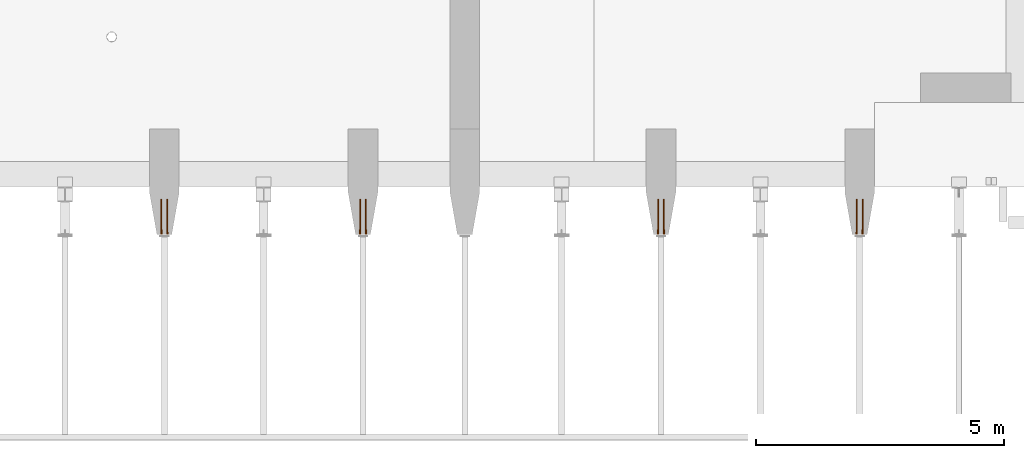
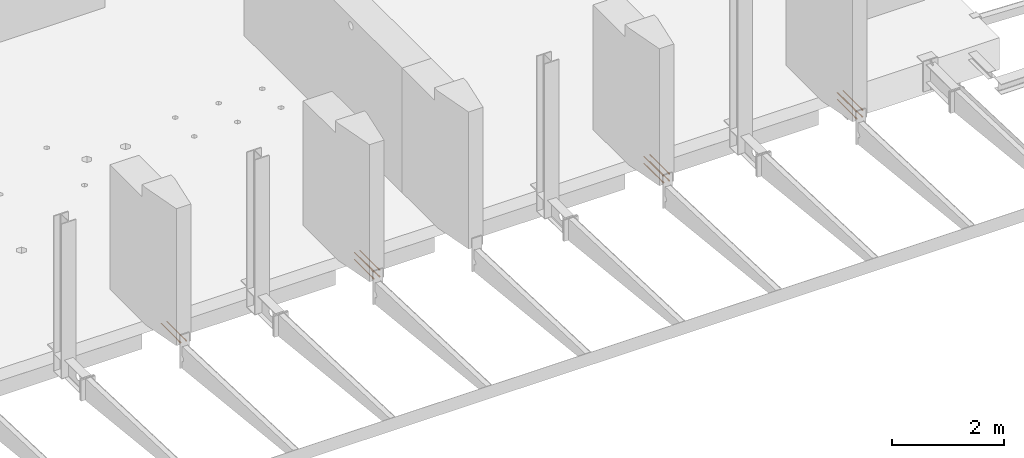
# One storey, part 27 of 27: 14 proxies.
"""IFC2X3 building model written with IfcOpenShell, lengths in millimetres."""

from ifc_helpers import new_model, entity, si_unit, converted_unit, derived_unit, direction, frame, frame_2d, origin, place, context, subcontext, project, spatial, circle, extrude, faceted_brep, source, transform, mapped, type_object, type_shapes, element, save


model = new_model("IFC2X3")

# Units and contexts
model_context = context("Model", 3, precision=0.01, world=origin(), true_north=direction((6.12303176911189e-17, 1.0)))
body_context = subcontext(model_context, "Body", "Model", "MODEL_VIEW")
ifc_project = project(units=[si_unit("LENGTHUNIT", "METRE", prefix="MILLI"), si_unit("AREAUNIT", "SQUARE_METRE"), si_unit("VOLUMEUNIT", "CUBIC_METRE"), converted_unit("PLANEANGLEUNIT", "DEGREE", entity("IfcRatioMeasure", 0.0174532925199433), si_unit("PLANEANGLEUNIT", "RADIAN"), dimensions=[0, 0, 0, 0, 0, 0, 0]), si_unit("MASSUNIT", "GRAM", prefix="KILO"), derived_unit("MASSDENSITYUNIT", [(si_unit("MASSUNIT", "GRAM", prefix="KILO"), 1), (si_unit("LENGTHUNIT", "METRE"), -3)]), si_unit("TIMEUNIT", "SECOND"), si_unit("FREQUENCYUNIT", "HERTZ"), si_unit("THERMODYNAMICTEMPERATUREUNIT", "DEGREE_CELSIUS"), derived_unit("THERMALTRANSMITTANCEUNIT", [(si_unit("MASSUNIT", "GRAM", prefix="KILO"), 1), (si_unit("THERMODYNAMICTEMPERATUREUNIT", "KELVIN"), -1), (si_unit("TIMEUNIT", "SECOND"), -3)]), derived_unit("VOLUMETRICFLOWRATEUNIT", [(si_unit("LENGTHUNIT", "METRE"), 3), (si_unit("TIMEUNIT", "SECOND"), -1)]), si_unit("ELECTRICCURRENTUNIT", "AMPERE"), si_unit("ELECTRICVOLTAGEUNIT", "VOLT"), si_unit("POWERUNIT", "WATT"), si_unit("FORCEUNIT", "NEWTON", prefix="KILO"), si_unit("ILLUMINANCEUNIT", "LUX"), si_unit("LUMINOUSFLUXUNIT", "LUMEN"), si_unit("LUMINOUSINTENSITYUNIT", "CANDELA"), derived_unit("USERDEFINED", [(si_unit("MASSUNIT", "GRAM", prefix="KILO"), -1), (si_unit("LENGTHUNIT", "METRE"), -2), (si_unit("TIMEUNIT", "SECOND"), 3), (si_unit("LUMINOUSFLUXUNIT", "LUMEN"), 1)]), derived_unit("LINEARVELOCITYUNIT", [(si_unit("LENGTHUNIT", "METRE"), 1), (si_unit("TIMEUNIT", "SECOND"), -1)]), si_unit("PRESSUREUNIT", "PASCAL"), derived_unit("USERDEFINED", [(si_unit("LENGTHUNIT", "METRE"), -2), (si_unit("MASSUNIT", "GRAM", prefix="KILO"), 1), (si_unit("TIMEUNIT", "SECOND"), -2)])], contexts=[model_context])

# Site, building, storey
site_placement = place(None, origin())
site = spatial("IfcSite", under=ifc_project, at=site_placement, Name="Default", CompositionType="ELEMENT")
building_placement = place(site_placement, origin())
building = spatial("IfcBuilding", under=site, at=building_placement, Name="niet gebruiken", CompositionType="ELEMENT")
storey_placement = place(building_placement, frame((0.0, 0.0, 6000.0)))
storey = spatial("IfcBuildingStorey", under=building, at=storey_placement, Name="01 eerste verdieping", CompositionType="ELEMENT", Elevation=6000.0)

# Proxies
building_element_proxy_type_1 = type_object("IfcBuildingElementProxyType", Name="Ø20/M24x705", PredefinedType="NOTDEFINED")
shared_shape_1 = source(origin(), body_context, "Body", "SolidModel", [
    extrude(circle(Radius=10.0, at=frame_2d((0.0, -1.61554457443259e-14), x_axis=(1.0, 0.0))), frame((34.9769027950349, 0.0, -705.0)), (0.0, 0.0, 1.0), 615.0),
    extrude(circle(Radius=10.0, at=frame_2d((0.0, -1.61554457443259e-14), x_axis=(1.0, 0.0))), frame((34.9769027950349, 0.0, -705.0)), (0.0, 0.0, 1.0), 615.0),
    faceted_brep([(29.3200485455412, 13.6568542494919, 0.0), (32.1484756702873, 14.8284271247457, 0.0), (34.9769027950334, 16.0, 0.0), (34.9769027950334, 16.0, -38.0), (32.1484756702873, 14.8284271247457, -38.0), (29.3200485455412, 13.6568542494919, -38.0), (26.4916214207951, 12.4852813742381, -38.0), (23.663194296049, 11.3137084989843, -38.0), (23.663194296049, 11.3137084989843, 0.0), (26.4916214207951, 12.4852813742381, 0.0), (49.805329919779, 2.82842712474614, 0.0), (50.9769027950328, 0.0, 0.0), (50.9769027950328, 0.0, -38.0), (50.0199937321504, 2.31018283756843, -38.0), (49.7680552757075, 2.91841607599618, -38.0), (48.6337570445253, 5.65685424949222, -38.0), (48.5592077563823, 5.83683215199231, -38.0), (47.4621841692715, 8.48528137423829, -38.0), (46.2906112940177, 11.3137084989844, -38.0), (46.2906112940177, 11.3137084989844, 0.0), (47.4621841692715, 8.48528137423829, 0.0), (48.6337570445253, 5.65685424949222, 0.0), (21.3200485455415, 5.65685424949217, 0.0), (22.4916214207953, 8.48528137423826, 0.0), (22.4916214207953, 8.48528137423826, -38.0), (22.2769576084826, 7.96703708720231, -38.0), (21.3200485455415, 5.65685424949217, -38.0), (20.8907209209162, 4.62036567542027, -38.0), (20.1484756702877, 2.82842712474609, -38.0), (18.976902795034, 0.0, -38.0), (18.976902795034, 0.0, 0.0), (20.1484756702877, 2.82842712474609, 0.0), (40.6337570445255, 13.6568542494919, 0.0), (43.4621841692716, 12.4852813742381, 0.0), (43.4621841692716, 12.4852813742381, -38.0), (40.6337570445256, 13.6568542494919, -38.0), (37.8053299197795, 14.8284271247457, -38.0), (37.8053299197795, 14.8284271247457, 0.0), (49.063084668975, -4.62036567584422, 0.0), (47.6768479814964, -7.96703708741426, 0.0), (46.2906112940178, -11.3137084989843, 0.0), (46.2906112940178, -11.3137084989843, -38.0), (47.4621841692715, -8.48528137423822, -38.0), (48.6337570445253, -5.65685424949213, -38.0), (49.8053299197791, -2.82842712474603, -38.0), (29.3200485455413, -13.6568542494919, 0.0), (26.4916214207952, -12.4852813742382, 0.0), (23.6631942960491, -11.3137084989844, 0.0), (23.6631942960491, -11.3137084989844, -38.0), (26.4916214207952, -12.4852813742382, -38.0), (29.3200485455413, -13.6568542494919, -38.0), (32.1484756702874, -14.8284271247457, -38.0), (34.9769027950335, -16.0, -38.0), (34.9769027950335, -16.0, 0.0), (32.1484756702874, -14.8284271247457, 0.0), (37.8053299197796, -14.8284271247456, -38.0), (40.6337570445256, -13.6568542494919, -38.0), (43.4621841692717, -12.4852813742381, -38.0), (43.4621841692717, -12.4852813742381, 0.0), (40.6337570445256, -13.6568542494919, 0.0), (37.8053299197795, -14.8284271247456, 0.0), (22.4916214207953, -8.48528137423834, 0.0), (21.3200485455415, -5.65685424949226, 0.0), (20.1484756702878, -2.82842712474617, 0.0), (19.9338118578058, -2.31018283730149, -38.0), (20.1857498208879, -2.91841488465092, -38.0), (21.3200485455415, -5.65685424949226, -38.0), (22.4916214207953, -8.48528137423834, -38.0), (25.7845146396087, 9.19238815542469, -52.0), (24.8628969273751, 6.96740617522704, -52.0), (23.9412792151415, 4.7424241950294, -52.0), (22.9590910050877, 2.3712120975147, -52.0), (21.976902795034, 0.0, -52.0), (44.1692909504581, 9.19238815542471, -52.0), (47.9769027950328, 0.0, -52.0), (46.994714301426, 2.37121278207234, -52.0), (46.0730968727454, 4.59619407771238, -52.0), (45.1211939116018, 6.89429111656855, -52.0), (34.9769027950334, 13.0, -52.0), (32.6788057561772, 12.0480970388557, -52.0), (30.380708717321, 11.096194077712, -52.0), (28.0826116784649, 10.1442911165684, -52.0), (37.2749998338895, 12.0480970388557, -52.0), (41.8711939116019, 10.1442911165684, -52.0), (39.5730968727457, 11.0961940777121, -52.0), (44.1692909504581, -9.19238815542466, -52.0), (45.0909086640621, -6.96740617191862, -52.0), (45.3722781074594, -6.28812024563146, -52.0), (46.0125263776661, -4.74242418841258, -52.0), (46.5752652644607, -3.38385233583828, -52.0), (46.9947145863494, -2.37121209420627, -52.0), (28.0826116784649, -10.1442911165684, -52.0), (30.3807087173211, -11.0961940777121, -52.0), (32.6788057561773, -12.0480970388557, -52.0), (34.9769027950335, -13.0, -52.0), (25.7845146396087, -9.19238815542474, -52.0), (37.2749998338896, -12.0480970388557, -52.0), (39.5730968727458, -11.096194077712, -52.0), (41.871193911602, -10.1442911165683, -52.0), (22.9288057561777, -2.29809703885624, -52.0), (23.8807087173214, -4.59619407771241, -52.0), (24.8326116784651, -6.89429111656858, -52.0), (32.6788057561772, 12.0480970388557, -90.0), (30.380708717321, 11.096194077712, -90.0), (28.0826116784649, 10.1442911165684, -90.0), (25.7845146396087, 9.19238815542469, -90.0), (34.9769027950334, 13.0, -90.0), (47.9769027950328, 0.0, -90.0), (47.2760840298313, 1.691926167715, -90.0), (46.0730968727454, 4.59619407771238, -90.0), (45.1211939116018, 6.89429111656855, -90.0), (44.1692909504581, 9.19238815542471, -90.0), (23.3785403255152, 3.38385233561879, -90.0), (21.976902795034, 0.0, -90.0), (24.5815274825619, 6.28812024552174, -90.0), (41.8711939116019, 10.1442911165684, -90.0), (39.5730968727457, 11.0961940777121, -90.0), (37.2749998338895, 12.0480970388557, -90.0), (46.0730968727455, -4.5961940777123, -90.0), (47.0249998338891, -2.29809703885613, -90.0), (44.1692909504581, -9.19238815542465, -90.0), (45.1211939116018, -6.89429111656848, -90.0), (25.7845146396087, -9.19238815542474, -90.0), (28.0826116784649, -10.1442911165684, -90.0), (30.3807087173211, -11.0961940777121, -90.0), (32.6788057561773, -12.0480970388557, -90.0), (34.9769027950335, -13.0, -90.0), (37.2749998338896, -12.0480970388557, -90.0), (39.5730968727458, -11.096194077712, -90.0), (41.871193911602, -10.1442911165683, -90.0), (22.6777215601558, -1.6919261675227, -90.0), (23.8807087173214, -4.59619407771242, -90.0), (24.8326116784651, -6.89429111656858, -90.0), (34.9769027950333, 0.0, -90.0), (34.9769027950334, 0.0, -38.0), (47.9769027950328, 0.0, -38.0), (47.2760840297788, 1.69192616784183, -38.0), (46.0730968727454, 4.59619407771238, -38.0), (45.1211939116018, 6.89429111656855, -38.0), (44.1692909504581, 9.19238815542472, -38.0), (41.8711939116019, 10.1442911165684, -38.0), (39.5730968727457, 11.0961940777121, -38.0), (37.2749998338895, 12.0480970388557, -38.0), (34.9769027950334, 13.0, -38.0), (32.6788057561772, 12.0480970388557, -38.0), (30.380708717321, 11.096194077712, -38.0), (28.0826116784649, 10.1442911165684, -38.0), (25.7845146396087, 9.19238815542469, -38.0), (24.5815274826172, 6.28812024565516, -38.0), (23.3785403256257, 3.38385233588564, -38.0), (21.976902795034, 0.0, -38.0), (22.6777215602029, -1.69192616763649, -38.0), (47.0249998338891, -2.29809703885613, -38.0), (46.0730968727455, -4.59619407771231, -38.0), (45.1211939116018, -6.89429111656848, -38.0), (44.1692909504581, -9.19238815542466, -38.0), (41.871193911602, -10.1442911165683, -38.0), (39.5730968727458, -11.096194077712, -38.0), (37.2749998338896, -12.0480970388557, -38.0), (34.9769027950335, -13.0, -38.0), (23.8807087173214, -4.59619407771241, -38.0), (24.8326116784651, -6.89429111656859, -38.0), (25.7845146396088, -9.19238815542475, -38.0), (28.0826116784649, -10.1442911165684, -38.0), (30.3807087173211, -11.0961940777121, -38.0), (32.6788057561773, -12.0480970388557, -38.0), (32.6788057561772, 12.0480970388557, 0.0), (30.380708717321, 11.096194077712, 0.0), (28.0826116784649, 10.1442911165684, 0.0), (25.7845146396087, 9.19238815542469, 0.0), (34.9769027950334, 13.0, 0.0), (47.9769027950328, 0.0, 0.0), (47.0249998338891, 2.29809703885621, 0.0), (46.0730968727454, 4.59619407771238, 0.0), (45.1211939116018, 6.89429111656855, 0.0), (44.1692909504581, 9.19238815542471, 0.0), (24.832611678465, 6.89429111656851, 0.0), (23.8807087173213, 4.59619407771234, 0.0), (22.9288057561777, 2.29809703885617, 0.0), (21.976902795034, 0.0, 0.0), (37.2749998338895, 12.0480970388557, 0.0), (41.8711939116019, 10.1442911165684, 0.0), (39.5730968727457, 11.0961940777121, 0.0), (44.1692909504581, -9.19238815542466, 0.0), (45.3722781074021, -6.28812024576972, 0.0), (46.5752652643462, -3.38385233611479, 0.0), (32.6788057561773, -12.0480970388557, 0.0), (34.9769027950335, -13.0, 0.0), (25.7845146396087, -9.19238815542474, 0.0), (28.0826116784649, -10.1442911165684, 0.0), (30.3807087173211, -11.0961940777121, 0.0), (37.2749998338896, -12.0480970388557, 0.0), (39.5730968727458, -11.096194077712, 0.0), (41.871193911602, -10.1442911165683, 0.0), (22.9288057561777, -2.29809703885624, 0.0), (23.8807087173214, -4.59619407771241, 0.0), (24.8326116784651, -6.89429111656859, 0.0)], [[[0, 1, 2, 3, 4, 5, 6, 7, 8, 9]], [[10, 11, 12, 13, 14, 15, 16, 17, 18, 19, 20, 21]], [[22, 23, 8, 7, 24, 25, 26, 27, 28, 29, 30, 31]], [[32, 33, 19, 18, 34, 35, 36, 3, 2, 37]], [[38, 39, 40, 41, 42, 43, 44, 12, 11]], [[45, 46, 47, 48, 49, 50, 51, 52, 53, 54]], [[53, 52, 55, 56, 57, 41, 40, 58, 59, 60]], [[48, 47, 61, 62, 63, 30, 29, 64, 65, 66, 67]], [[7, 68, 69, 70, 71, 72, 29, 28, 27, 26, 25, 24]], [[73, 18, 17, 16, 15, 14, 13, 12, 74, 75, 76, 77]], [[4, 3, 78, 79, 80, 81, 68, 7, 6, 5]], [[82, 78, 3, 36, 35, 34, 18, 73, 83, 84]], [[41, 85, 86, 87, 88, 89, 90, 74, 12, 44, 43, 42]], [[91, 92, 93, 94, 52, 51, 50, 49, 48, 95]], [[55, 52, 94, 96, 97, 98, 85, 41, 57, 56]], [[99, 100, 101, 95, 48, 67, 66, 65, 64, 29, 72]], [[102, 103, 104, 105, 68, 81, 80, 79, 78, 106]], [[75, 74, 107, 108, 109, 110, 111, 73, 77, 76]], [[112, 113, 72, 71, 70, 69, 68, 105, 114]], [[84, 83, 73, 111, 115, 116, 117, 106, 78, 82]], [[118, 119, 107, 74, 90, 89, 88, 87, 86, 85, 120, 121]], [[92, 91, 95, 122, 123, 124, 125, 126, 94, 93]], [[94, 126, 127, 128, 129, 120, 85, 98, 97, 96]], [[122, 95, 101, 100, 99, 72, 113, 130, 131, 132]], [[133, 111, 110]], [[133, 110, 109]], [[133, 109, 108]], [[133, 108, 107]], [[133, 107, 119]], [[133, 115, 111]], [[133, 116, 115]], [[133, 117, 116]], [[133, 106, 117]], [[133, 102, 106]], [[133, 103, 102]], [[133, 104, 103]], [[133, 105, 104]], [[133, 114, 105]], [[133, 112, 114]], [[133, 113, 112]], [[133, 119, 118]], [[133, 118, 121]], [[133, 121, 120]], [[133, 120, 129]], [[133, 129, 128]], [[133, 128, 127]], [[133, 127, 126]], [[133, 126, 125]], [[133, 130, 113]], [[133, 131, 130]], [[133, 132, 131]], [[133, 122, 132]], [[133, 125, 124]], [[133, 124, 123]], [[133, 123, 122]], [[134, 135, 136]], [[134, 136, 137]], [[134, 137, 138]], [[134, 138, 139]], [[134, 139, 140]], [[134, 140, 141]], [[134, 141, 142]], [[134, 142, 143]], [[134, 143, 144]], [[134, 144, 145]], [[134, 145, 146]], [[134, 146, 147]], [[134, 147, 148]], [[134, 148, 149]], [[134, 149, 150]], [[134, 150, 151]], [[134, 152, 135]], [[134, 153, 152]], [[134, 154, 153]], [[134, 155, 154]], [[134, 156, 155]], [[134, 157, 156]], [[134, 158, 157]], [[134, 159, 158]], [[134, 151, 160]], [[134, 160, 161]], [[134, 161, 162]], [[134, 162, 163]], [[134, 163, 164]], [[134, 164, 165]], [[134, 165, 159]], [[166, 167, 168, 169, 147, 146, 145, 144, 143, 170]], [[136, 135, 171, 172, 173, 174, 175, 139, 138, 137]], [[148, 147, 169, 176, 177, 178, 179, 150, 149]], [[180, 170, 143, 142, 141, 140, 139, 175, 181, 182]], [[153, 154, 155, 183, 184, 185, 171, 135, 152]], [[186, 187, 159, 165, 164, 163, 162, 188, 189, 190]], [[158, 159, 187, 191, 192, 193, 183, 155, 156, 157]], [[161, 160, 151, 150, 179, 194, 195, 196, 188, 162]], [[171, 11, 10]], [[171, 10, 21]], [[171, 21, 20]], [[171, 20, 19]], [[19, 172, 171]], [[171, 38, 11]], [[171, 39, 38]], [[171, 40, 39]], [[40, 171, 185]], [[40, 185, 184]], [[40, 184, 183]], [[183, 58, 40]], [[183, 59, 58]], [[183, 60, 59]], [[183, 53, 60]], [[53, 183, 193]], [[53, 193, 192]], [[53, 192, 191]], [[53, 191, 187]], [[53, 187, 186]], [[53, 186, 190]], [[53, 190, 189]], [[53, 189, 188]], [[188, 54, 53]], [[188, 45, 54]], [[188, 46, 45]], [[188, 47, 46]], [[47, 188, 196]], [[47, 196, 195]], [[47, 195, 194]], [[47, 194, 179]], [[179, 61, 47]], [[179, 62, 61]], [[179, 63, 62]], [[179, 30, 63]], [[179, 31, 30]], [[179, 22, 31]], [[179, 23, 22]], [[179, 8, 23]], [[8, 179, 178]], [[8, 178, 177]], [[8, 177, 176]], [[8, 176, 169]], [[169, 9, 8]], [[169, 0, 9]], [[169, 1, 0]], [[169, 2, 1]], [[2, 169, 168]], [[2, 168, 167]], [[2, 167, 166]], [[2, 166, 170]], [[2, 170, 180]], [[2, 180, 182]], [[2, 182, 181]], [[2, 181, 175]], [[175, 19, 33]], [[19, 175, 174]], [[175, 33, 32]], [[175, 32, 37]], [[175, 37, 2]], [[19, 174, 173]], [[19, 173, 172]]]),
])
type_shapes(building_element_proxy_type_1, [shared_shape_1])
for number, where, z_axis, x_axis in (
    (1, (145775.023097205, 150.0, 95.0), (0.0, -1.0, 0.0), (1.0, 0.0, 0.0)),
    (2, (145775.023097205, 150.0, -55.0), (0.0, -1.0, 0.0), (1.0, 0.0, 0.0)),
    (3, (141775.023097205, 150.0, -55.0), (0.0, -1.0, 0.0), (1.0, 0.0, 0.0)),
    (4, (151775.023097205, 150.0, 95.0), (0.0, -1.0, 0.0), (1.0, 0.0, 0.0)),
    (5, (151775.023097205, 150.0, -55.0), (0.0, -1.0, 0.0), (1.0, 0.0, 0.0)),
    (6, (155775.023097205, 150.0, 95.0), (0.0, -1.0, 0.0), (1.0, 0.0, 0.0)),
    (7, (155775.023097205, 150.0, -55.0), (0.0, -1.0, 0.0), (1.0, 0.0, 0.0)),
):
    element("IfcBuildingElementProxy", number, at=place(storey_placement, frame(where, z_axis=z_axis, x_axis=x_axis)), inside=storey, type_object=building_element_proxy_type_1, Name="GM_Stekanker_DEMU_4010 GV:Ø20/M24x705", ObjectType="Ø20/M24x705", context=body_context, shape_type="MappedRepresentation", body=[
        mapped(shared_shape_1, transform((0.0, 0.0, 0.0), scale=1.0)),
    ])
building_element_proxy_type_2 = type_object("IfcBuildingElementProxyType", Name="Ø20/M24x705", PredefinedType="NOTDEFINED")
shared_shape_2 = source(origin(), body_context, "Body", "SolidModel", [
    extrude(circle(Radius=10.0, at=frame_2d((0.0, -4.50212443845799e-14), x_axis=(1.0, 0.0))), frame((34.9769027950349, 0.0, -705.0)), (0.0, 0.0, 1.0), 615.0),
    extrude(circle(Radius=10.0, at=frame_2d((0.0, -4.50212443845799e-14), x_axis=(1.0, 0.0))), frame((34.9769027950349, 0.0, -705.0)), (0.0, 0.0, 1.0), 615.0),
    faceted_brep([(26.4916214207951, -12.4852813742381, 0.0), (23.663194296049, -11.3137084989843, 0.0), (23.663194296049, -11.3137084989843, -38.0), (26.4916214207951, -12.4852813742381, -38.0), (29.3200485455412, -13.6568542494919, -38.0), (32.1484756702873, -14.8284271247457, -38.0), (34.9769027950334, -16.0, -38.0), (34.9769027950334, -16.0, 0.0), (32.1484756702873, -14.8284271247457, 0.0), (29.3200485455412, -13.6568542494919, 0.0), (50.0199937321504, -2.31018283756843, -38.0), (50.9769027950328, 0.0, -38.0), (50.9769027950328, 0.0, 0.0), (49.805329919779, -2.82842712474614, 0.0), (48.6337570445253, -5.65685424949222, 0.0), (47.4621841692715, -8.48528137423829, 0.0), (46.2906112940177, -11.3137084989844, 0.0), (46.2906112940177, -11.3137084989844, -38.0), (47.4621841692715, -8.48528137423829, -38.0), (48.5592077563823, -5.83683215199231, -38.0), (48.6337570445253, -5.65685424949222, -38.0), (49.7680552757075, -2.91841607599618, -38.0), (21.3200485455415, -5.65685424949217, 0.0), (20.1484756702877, -2.82842712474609, 0.0), (18.976902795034, 0.0, 0.0), (18.976902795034, 0.0, -38.0), (20.1484756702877, -2.82842712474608, -38.0), (20.8907209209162, -4.62036567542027, -38.0), (21.3200485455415, -5.65685424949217, -38.0), (22.2769576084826, -7.9670370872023, -38.0), (22.4916214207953, -8.48528137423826, -38.0), (22.4916214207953, -8.48528137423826, 0.0), (37.8053299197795, -14.8284271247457, 0.0), (37.8053299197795, -14.8284271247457, -38.0), (40.6337570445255, -13.6568542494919, -38.0), (43.4621841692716, -12.4852813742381, -38.0), (43.4621841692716, -12.4852813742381, 0.0), (40.6337570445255, -13.6568542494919, 0.0), (48.6337570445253, 5.65685424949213, -38.0), (47.4621841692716, 8.48528137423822, -38.0), (46.2906112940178, 11.3137084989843, -38.0), (46.2906112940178, 11.3137084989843, 0.0), (47.6768479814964, 7.96703708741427, 0.0), (49.063084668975, 4.62036567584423, 0.0), (49.8053299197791, 2.82842712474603, -38.0), (32.1484756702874, 14.8284271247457, 0.0), (34.9769027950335, 16.0, 0.0), (34.9769027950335, 16.0, -38.0), (32.1484756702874, 14.8284271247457, -38.0), (29.3200485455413, 13.6568542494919, -38.0), (26.4916214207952, 12.4852813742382, -38.0), (23.6631942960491, 11.3137084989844, -38.0), (23.6631942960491, 11.3137084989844, 0.0), (26.4916214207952, 12.4852813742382, 0.0), (29.3200485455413, 13.6568542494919, 0.0), (37.8053299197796, 14.8284271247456, -38.0), (37.8053299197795, 14.8284271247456, 0.0), (40.6337570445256, 13.6568542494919, 0.0), (43.4621841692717, 12.4852813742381, 0.0), (43.4621841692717, 12.4852813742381, -38.0), (40.6337570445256, 13.6568542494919, -38.0), (22.4916214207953, 8.48528137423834, -38.0), (21.3200485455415, 5.65685424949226, -38.0), (20.1857498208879, 2.91841488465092, -38.0), (19.9338118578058, 2.31018283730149, -38.0), (20.1484756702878, 2.82842712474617, 0.0), (21.3200485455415, 5.65685424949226, 0.0), (22.4916214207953, 8.48528137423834, 0.0), (24.8628969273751, -6.96740617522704, -52.0), (25.7845146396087, -9.19238815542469, -52.0), (21.976902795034, 0.0, -52.0), (22.9590910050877, -2.3712120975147, -52.0), (23.9412792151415, -4.7424241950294, -52.0), (45.1211939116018, -6.89429111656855, -52.0), (46.0730968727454, -4.59619407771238, -52.0), (46.994714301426, -2.37121278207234, -52.0), (47.9769027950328, 0.0, -52.0), (44.1692909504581, -9.19238815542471, -52.0), (34.9769027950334, -13.0, -52.0), (28.0826116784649, -10.1442911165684, -52.0), (30.380708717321, -11.096194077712, -52.0), (32.6788057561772, -12.0480970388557, -52.0), (37.2749998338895, -12.0480970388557, -52.0), (39.5730968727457, -11.0961940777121, -52.0), (41.8711939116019, -10.1442911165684, -52.0), (45.0909086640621, 6.96740617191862, -52.0), (44.1692909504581, 9.19238815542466, -52.0), (46.9947145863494, 2.37121209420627, -52.0), (46.5752652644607, 3.38385233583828, -52.0), (46.0125263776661, 4.74242418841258, -52.0), (45.3722781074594, 6.28812024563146, -52.0), (34.9769027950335, 13.0, -52.0), (32.6788057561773, 12.0480970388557, -52.0), (30.3807087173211, 11.0961940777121, -52.0), (28.0826116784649, 10.1442911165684, -52.0), (25.7845146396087, 9.19238815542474, -52.0), (41.871193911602, 10.1442911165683, -52.0), (39.5730968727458, 11.096194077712, -52.0), (37.2749998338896, 12.0480970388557, -52.0), (22.9288057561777, 2.29809703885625, -52.0), (24.8326116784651, 6.89429111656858, -52.0), (23.8807087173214, 4.59619407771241, -52.0), (25.7845146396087, -9.19238815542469, -90.0), (28.0826116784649, -10.1442911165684, -90.0), (30.380708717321, -11.096194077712, -90.0), (32.6788057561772, -12.0480970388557, -90.0), (34.9769027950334, -13.0, -90.0), (47.2760840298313, -1.691926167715, -90.0), (47.9769027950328, 0.0, -90.0), (44.1692909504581, -9.19238815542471, -90.0), (45.1211939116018, -6.89429111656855, -90.0), (46.0730968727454, -4.59619407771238, -90.0), (24.5815274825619, -6.28812024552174, -90.0), (21.976902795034, 0.0, -90.0), (23.3785403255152, -3.38385233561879, -90.0), (37.2749998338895, -12.0480970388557, -90.0), (39.5730968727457, -11.0961940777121, -90.0), (41.8711939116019, -10.1442911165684, -90.0), (46.0730968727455, 4.5961940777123, -90.0), (45.1211939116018, 6.89429111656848, -90.0), (44.1692909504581, 9.19238815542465, -90.0), (47.0249998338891, 2.29809703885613, -90.0), (34.9769027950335, 13.0, -90.0), (32.6788057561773, 12.0480970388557, -90.0), (30.3807087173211, 11.0961940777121, -90.0), (28.0826116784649, 10.1442911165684, -90.0), (25.7845146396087, 9.19238815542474, -90.0), (37.2749998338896, 12.0480970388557, -90.0), (41.871193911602, 10.1442911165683, -90.0), (39.5730968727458, 11.096194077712, -90.0), (24.8326116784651, 6.89429111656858, -90.0), (23.8807087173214, 4.59619407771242, -90.0), (22.6777215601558, 1.6919261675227, -90.0), (34.9769027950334, 0.0, -90.0), (34.9769027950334, 0.0, -38.0), (44.1692909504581, -9.19238815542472, -38.0), (45.1211939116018, -6.89429111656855, -38.0), (46.0730968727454, -4.59619407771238, -38.0), (47.2760840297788, -1.69192616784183, -38.0), (47.9769027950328, 0.0, -38.0), (47.0249998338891, 2.29809703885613, -38.0), (41.8711939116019, -10.1442911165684, -38.0), (39.5730968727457, -11.0961940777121, -38.0), (37.2749998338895, -12.0480970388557, -38.0), (34.9769027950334, -13.0, -38.0), (32.6788057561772, -12.0480970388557, -38.0), (30.380708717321, -11.096194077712, -38.0), (28.0826116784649, -10.1442911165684, -38.0), (25.7845146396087, -9.19238815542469, -38.0), (24.5815274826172, -6.28812024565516, -38.0), (23.3785403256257, -3.38385233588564, -38.0), (21.976902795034, 0.0, -38.0), (46.0730968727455, 4.59619407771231, -38.0), (45.1211939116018, 6.89429111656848, -38.0), (44.1692909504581, 9.19238815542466, -38.0), (41.871193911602, 10.1442911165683, -38.0), (39.5730968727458, 11.096194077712, -38.0), (37.2749998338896, 12.0480970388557, -38.0), (34.9769027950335, 13.0, -38.0), (32.6788057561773, 12.0480970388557, -38.0), (22.6777215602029, 1.69192616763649, -38.0), (23.8807087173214, 4.59619407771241, -38.0), (24.8326116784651, 6.89429111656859, -38.0), (25.7845146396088, 9.19238815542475, -38.0), (30.3807087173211, 11.0961940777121, -38.0), (28.0826116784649, 10.1442911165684, -38.0), (25.7845146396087, -9.19238815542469, 0.0), (28.0826116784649, -10.1442911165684, 0.0), (30.380708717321, -11.096194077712, 0.0), (32.6788057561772, -12.0480970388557, 0.0), (34.9769027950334, -13.0, 0.0), (47.0249998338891, -2.29809703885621, 0.0), (47.9769027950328, 0.0, 0.0), (44.1692909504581, -9.19238815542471, 0.0), (45.1211939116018, -6.89429111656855, 0.0), (46.0730968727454, -4.59619407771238, 0.0), (21.976902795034, 0.0, 0.0), (22.9288057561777, -2.29809703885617, 0.0), (23.8807087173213, -4.59619407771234, 0.0), (24.832611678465, -6.89429111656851, 0.0), (39.5730968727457, -11.0961940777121, 0.0), (41.8711939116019, -10.1442911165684, 0.0), (37.2749998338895, -12.0480970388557, 0.0), (46.5752652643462, 3.38385233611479, 0.0), (45.3722781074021, 6.28812024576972, 0.0), (44.1692909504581, 9.19238815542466, 0.0), (30.3807087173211, 11.0961940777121, 0.0), (28.0826116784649, 10.1442911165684, 0.0), (25.7845146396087, 9.19238815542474, 0.0), (34.9769027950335, 13.0, 0.0), (32.6788057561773, 12.0480970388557, 0.0), (41.871193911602, 10.1442911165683, 0.0), (39.5730968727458, 11.096194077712, 0.0), (37.2749998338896, 12.0480970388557, 0.0), (24.8326116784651, 6.89429111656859, 0.0), (23.8807087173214, 4.59619407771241, 0.0), (22.9288057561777, 2.29809703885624, 0.0)], [[[0, 1, 2, 3, 4, 5, 6, 7, 8, 9]], [[10, 11, 12, 13, 14, 15, 16, 17, 18, 19, 20, 21]], [[22, 23, 24, 25, 26, 27, 28, 29, 30, 2, 1, 31]], [[32, 7, 6, 33, 34, 35, 17, 16, 36, 37]], [[38, 39, 40, 41, 42, 43, 12, 11, 44]], [[45, 46, 47, 48, 49, 50, 51, 52, 53, 54]], [[55, 47, 46, 56, 57, 58, 41, 40, 59, 60]], [[61, 62, 63, 64, 25, 24, 65, 66, 67, 52, 51]], [[68, 69, 2, 30, 29, 28, 27, 26, 25, 70, 71, 72]], [[73, 74, 75, 76, 11, 10, 21, 20, 19, 18, 17, 77]], [[78, 6, 5, 4, 3, 2, 69, 79, 80, 81]], [[33, 6, 78, 82, 83, 84, 77, 17, 35, 34]], [[85, 86, 40, 39, 38, 44, 11, 76, 87, 88, 89, 90]], [[49, 48, 47, 91, 92, 93, 94, 95, 51, 50]], [[91, 47, 55, 60, 59, 40, 86, 96, 97, 98]], [[99, 70, 25, 64, 63, 62, 61, 51, 95, 100, 101]], [[81, 80, 79, 69, 102, 103, 104, 105, 106, 78]], [[107, 108, 76, 75, 74, 73, 77, 109, 110, 111]], [[112, 102, 69, 68, 72, 71, 70, 113, 114]], [[82, 78, 106, 115, 116, 117, 109, 77, 84, 83]], [[118, 119, 120, 86, 85, 90, 89, 88, 87, 76, 108, 121]], [[92, 91, 122, 123, 124, 125, 126, 95, 94, 93]], [[127, 122, 91, 98, 97, 96, 86, 120, 128, 129]], [[130, 131, 132, 113, 70, 99, 101, 100, 95, 126]], [[133, 108, 107]], [[133, 107, 111]], [[133, 111, 110]], [[133, 110, 109]], [[133, 109, 117]], [[133, 117, 116]], [[133, 116, 115]], [[133, 115, 106]], [[133, 106, 105]], [[133, 105, 104]], [[133, 104, 103]], [[133, 103, 102]], [[133, 102, 112]], [[133, 112, 114]], [[133, 114, 113]], [[133, 113, 132]], [[133, 121, 108]], [[133, 118, 121]], [[133, 119, 118]], [[133, 120, 119]], [[133, 128, 120]], [[133, 129, 128]], [[133, 127, 129]], [[133, 122, 127]], [[133, 132, 131]], [[133, 131, 130]], [[133, 130, 126]], [[133, 126, 125]], [[133, 125, 124]], [[133, 124, 123]], [[133, 123, 122]], [[134, 135, 136]], [[134, 136, 137]], [[134, 137, 138]], [[134, 138, 139]], [[134, 139, 140]], [[134, 141, 135]], [[134, 142, 141]], [[134, 143, 142]], [[134, 144, 143]], [[134, 145, 144]], [[134, 146, 145]], [[134, 147, 146]], [[134, 148, 147]], [[134, 149, 148]], [[134, 150, 149]], [[134, 151, 150]], [[134, 140, 152]], [[134, 152, 153]], [[134, 153, 154]], [[134, 154, 155]], [[134, 155, 156]], [[134, 156, 157]], [[134, 157, 158]], [[134, 158, 159]], [[134, 160, 151]], [[134, 161, 160]], [[134, 162, 161]], [[134, 163, 162]], [[134, 159, 164]], [[134, 164, 165]], [[134, 165, 163]], [[145, 146, 147, 148, 166, 167, 168, 169, 170, 144]], [[171, 172, 139, 138, 137, 136, 135, 173, 174, 175]], [[150, 151, 176, 177, 178, 179, 166, 148, 149]], [[180, 181, 173, 135, 141, 142, 143, 144, 170, 182]], [[183, 184, 185, 154, 153, 152, 140, 139, 172]], [[186, 187, 188, 163, 165, 164, 159, 158, 189, 190]], [[189, 158, 157, 156, 155, 154, 185, 191, 192, 193]], [[163, 188, 194, 195, 196, 176, 151, 160, 161, 162]], [[172, 16, 15]], [[16, 172, 171]], [[172, 15, 14]], [[172, 14, 13]], [[172, 13, 12]], [[172, 12, 43]], [[172, 43, 42]], [[172, 42, 41]], [[41, 183, 172]], [[16, 171, 175]], [[16, 175, 174]], [[16, 174, 173]], [[173, 36, 16]], [[173, 37, 36]], [[173, 32, 37]], [[173, 7, 32]], [[7, 173, 181]], [[7, 181, 180]], [[7, 180, 182]], [[7, 182, 170]], [[7, 170, 169]], [[7, 169, 168]], [[7, 168, 167]], [[7, 167, 166]], [[166, 8, 7]], [[166, 9, 8]], [[166, 0, 9]], [[166, 1, 0]], [[1, 166, 179]], [[1, 179, 178]], [[1, 178, 177]], [[1, 177, 176]], [[176, 31, 1]], [[176, 22, 31]], [[176, 23, 22]], [[176, 24, 23]], [[176, 65, 24]], [[176, 66, 65]], [[176, 67, 66]], [[176, 52, 67]], [[52, 176, 196]], [[52, 196, 195]], [[52, 195, 194]], [[52, 194, 188]], [[188, 53, 52]], [[188, 54, 53]], [[188, 45, 54]], [[188, 46, 45]], [[46, 188, 187]], [[46, 187, 186]], [[46, 186, 190]], [[46, 190, 189]], [[46, 189, 193]], [[46, 193, 192]], [[46, 192, 191]], [[46, 191, 185]], [[185, 41, 58]], [[41, 185, 184]], [[185, 58, 57]], [[185, 57, 56]], [[185, 56, 46]], [[41, 184, 183]]]),
])
type_shapes(building_element_proxy_type_2, [shared_shape_2])
for number, where, z_axis, x_axis in (
    (8, (145724.976902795, 150.0, 95.0), (0.0, -1.0, 0.0), (-1.0, 0.0, 0.0)),
    (9, (145724.976902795, 150.0, -55.0), (0.0, -1.0, 0.0), (-1.0, 0.0, 0.0)),
    (10, (141724.976902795, 150.0, -55.0), (0.0, -1.0, 0.0), (-1.0, 0.0, 0.0)),
    (11, (151724.976902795, 150.0, 95.0), (0.0, -1.0, 0.0), (-1.0, 0.0, 0.0)),
    (12, (151724.976902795, 150.0, -55.0), (0.0, -1.0, 0.0), (-1.0, 0.0, 0.0)),
    (13, (155724.976902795, 150.0, 95.0), (0.0, -1.0, 0.0), (-1.0, 0.0, 0.0)),
    (14, (155724.976902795, 150.0, -55.0), (0.0, -1.0, 0.0), (-1.0, 0.0, 0.0)),
):
    element("IfcBuildingElementProxy", number, at=place(storey_placement, frame(where, z_axis=z_axis, x_axis=x_axis)), inside=storey, type_object=building_element_proxy_type_2, Name="GM_Stekanker_DEMU_4010 GV:Ø20/M24x705", ObjectType="Ø20/M24x705", context=body_context, shape_type="MappedRepresentation", body=[
        mapped(shared_shape_2, transform((0.0, 0.0, 0.0), scale=1.0)),
    ])

save(model, "model.ifc")
